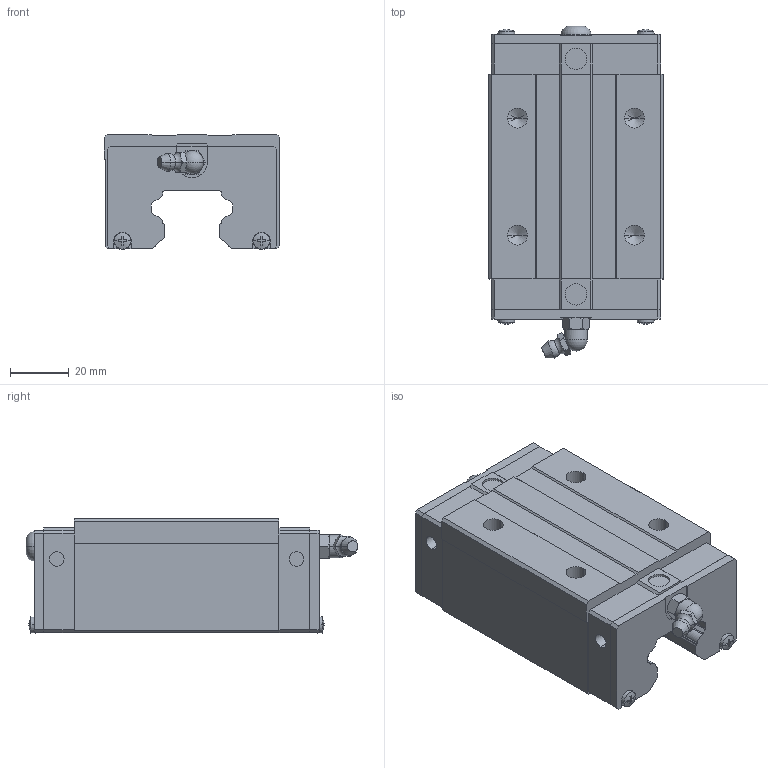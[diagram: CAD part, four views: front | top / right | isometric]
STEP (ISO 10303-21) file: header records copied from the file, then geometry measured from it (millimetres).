
FILE_DESCRIPTION(('no description'),'unknown implementation level');
FILE_NAME('HGH30CA_Z0_H_SS_6.stp',' ',('HIWIN GmbH'),('CADClick - KiM GmbH - www.kimweb.de'),'unknown preprocess','ACIS','unknown authorization');
FILE_SCHEMA(('automotive_design'));
Length unit declared in the file: millimetre
Products named in the file (1): HGH30CA Z0 H SS
Bounding box: 60 x 113.51 x 39.3 mm (x, y, z)
Volume: 171945.5 mm3; surface area: 29322.1 mm2
Topology: 1 solids, 5 shells, 362 faces, 966 edges, 618 vertices
Faces by surface type: plane 212, cylinder 84, cone 46, torus 18, sphere 2
Entity records: 22130 total; most frequent: CARTESIAN_POINT 2473, STYLED_ITEM 1937, PRESENTATION_STYLE_ASSIGNMENT 1937, COLOUR_RGB 1937, ORIENTED_EDGE 1912, DIRECTION 1802, EDGE_CURVE 956, CURVE_STYLE 956
